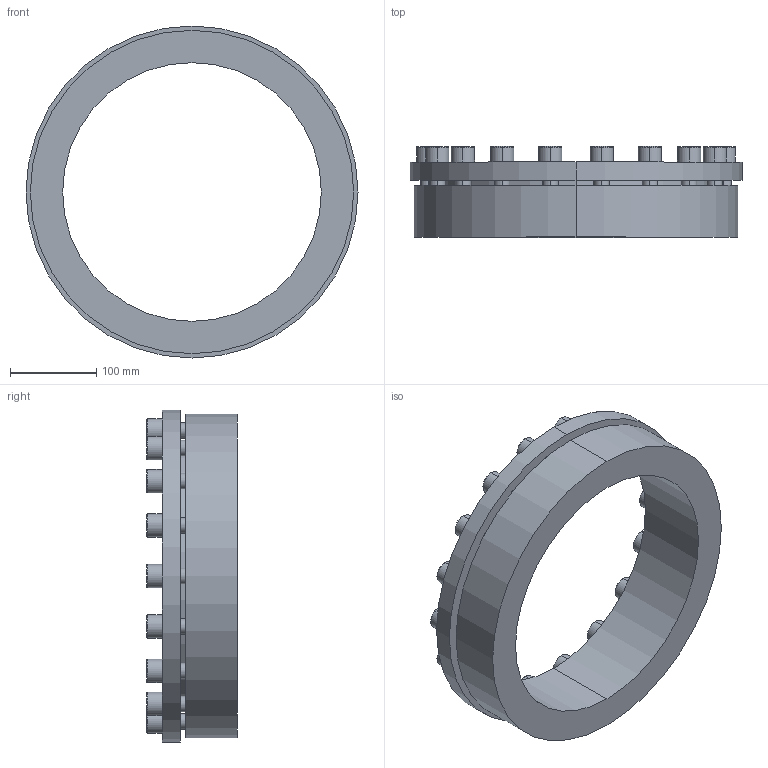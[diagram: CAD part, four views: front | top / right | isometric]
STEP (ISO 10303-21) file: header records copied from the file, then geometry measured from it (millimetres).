
FILE_DESCRIPTION (( 'STEP AP203' ), '1' );
FILE_NAME ('PL-H6 300-375.STEP', '2021-10-23T01:40:48', ( '' ), ( '' ), 'SwSTEP 2.0', 'SolidWorks 2018', '' );
FILE_SCHEMA (( 'CONFIG_CONTROL_DESIGN' ));
Length unit declared in the file: millimetre
Products named in the file (1): PL-H6 300-375
Bounding box: 385 x 105 x 385 mm (x, y, z)
Volume: 3574615 mm3; surface area: 372131.7 mm2
Topology: 1 solids, 1 shells, 264 faces, 636 edges, 412 vertices
Faces by surface type: plane 148, cylinder 80, torus 36
Entity records: 7857 total; most frequent: DIRECTION 1398, CARTESIAN_POINT 1313, ORIENTED_EDGE 1272, EDGE_CURVE 636, AXIS2_PLACEMENT_3D 497, VERTEX_POINT 412, VECTOR 404, LINE 404
